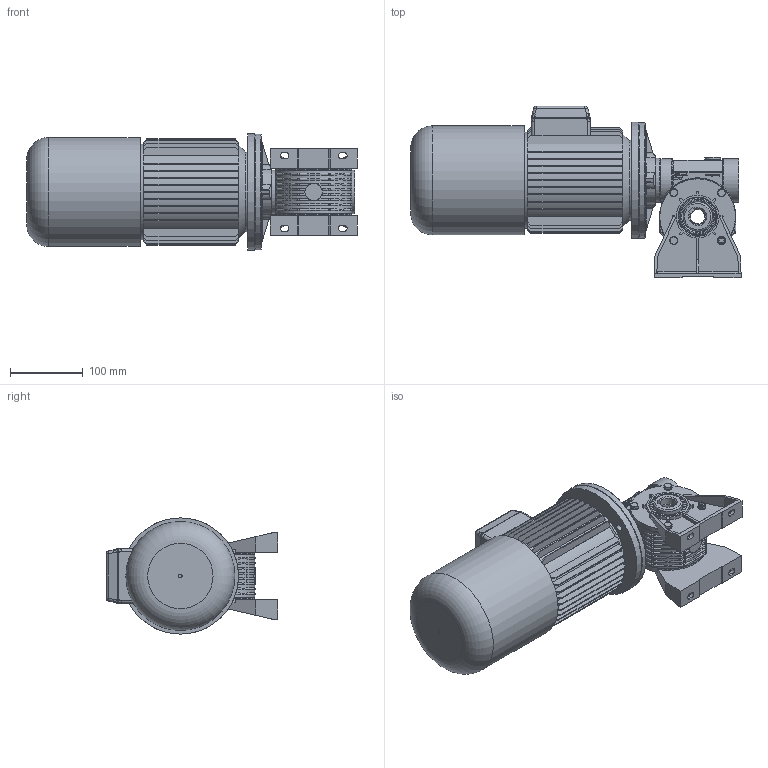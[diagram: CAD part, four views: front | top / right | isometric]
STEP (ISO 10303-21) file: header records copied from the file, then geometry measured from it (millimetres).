
FILE_DESCRIPTION((''),'2;1');
FILE_NAME('Y:\Archivi Inventor\Prog_01\GRAND_10\Figurini\mrv10 VECCHIO\pam 71 b5 - B\MRV10 PAM71B5 p2 B.stp','2014-01-15T09:25:07',('tech3'),(''),'Autodesk Inventor 2013','Autodesk Inventor 2013','');
FILE_SCHEMA(('AUTOMOTIVE_DESIGN { 1 0 10303 214 1 1 1 1 }'));
Length unit declared in the file: millimetre
Products named in the file (16): mrv10; V10_PRIMARIO; carcassa mrv10 fig; corona MRV10-f22 fig; RCA_40x7; 40_52_8; Tappo 3_8 GAS_esagn_incsst; Guarnizione 3_8 GAS; DIN EN ISO 4762 M6 x 20; 0101029; DIN EN 24017 M6 x 16; 0101010; 0101028; 0101006; DIN EN ISO 4762 M6 x 16; motori B5 brake 71
Assembly tree (28 placements, depth 3):
  mrv10
    V10_PRIMARIO
      carcassa mrv10 fig
      corona MRV10-f22 fig
      RCA_40x7
      40_52_8  x2
      Tappo 3_8 GAS_esagn_incsst
      Guarnizione 3_8 GAS
      DIN EN ISO 4762 M6 x 20
      0101029  x2
      DIN EN 24017 M6 x 16  x8
      0101010  x2
      0101028
    0101006
    DIN EN ISO 4762 M6 x 16  x4
    motori B5 brake 71
Bounding box: 454.95 x 236 x 160 mm (x, y, z)
Volume: 3883036.1 mm3; surface area: 649703.1 mm2
Topology: 28 solids, 32 shells, 1930 faces, 4882 edges, 3122 vertices
Faces by surface type: plane 1094, cylinder 402, bspline 210, cone 117, torus 99, sphere 8
Full cylindrical faces by diameter (mm): 2 x2, 4.917 x12, 5 x1, 6 x17, 6.5 x20, 8 x1, 8.88 x8, 9.5 x4, 10 x5, 11 x8, 14 x1, 14.95 x1, 16.3 x1, 16.5 x1, 19.981 x2, 22 x2, 24 x1, 35 x1, 35.2 x1, 39.4 x2, 40 x11, 42.5 x1, 42.881 x2, 47.232 x2, 52 x4, 60 x3, 61 x1, 80 x2, 82 x6, 103.5 x2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
Entity records: 54098 total; most frequent: CARTESIAN_POINT 15443, ORIENTED_EDGE 8020, DIRECTION 7272, EDGE_CURVE 4010, VERTEX_POINT 2662, AXIS2_PLACEMENT_3D 2478, VECTOR 2316, LINE 2316
